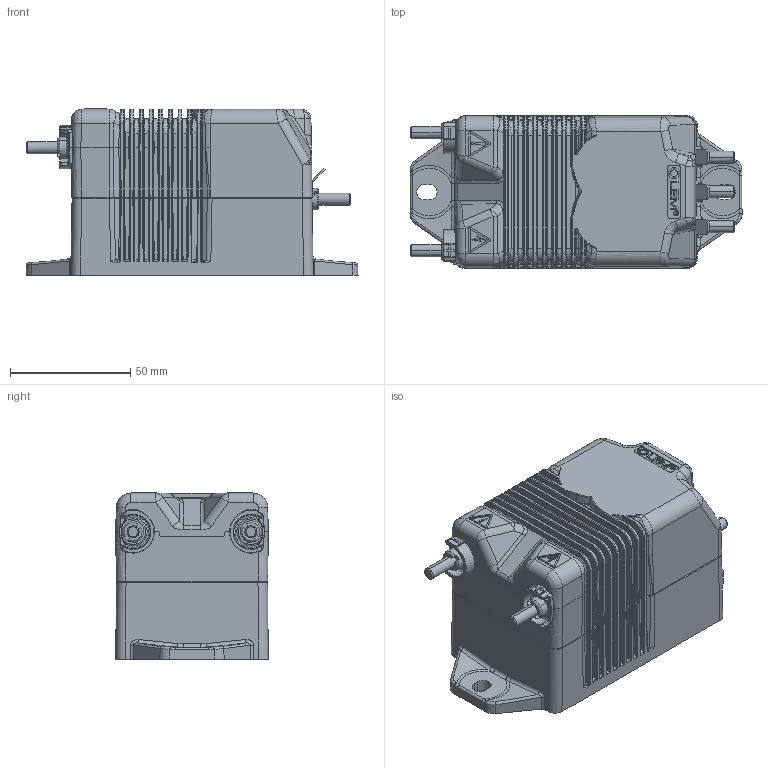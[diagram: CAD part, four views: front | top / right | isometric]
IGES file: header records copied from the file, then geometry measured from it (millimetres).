
Start section: Elysium IGES Interface
Global section: file name: C:\Users\scy\Desktop\B.igs; native system: PTC Creo Elements/Direct Modeling 19.0B  21-Mar-2015; preprocessor: Creo Element/Direct IGES_3D V2.2; author: Unknown; organization: Unknown; date: 20160511.142406; units: millimetre
Bounding box: 138 x 63.4 x 69.2 mm (x, y, z)
Volume: 401657.4 mm3; surface area: 56581 mm2
Topology: 1 solids, 1 shells, 2851 faces, 7055 edges, 4259 vertices
Faces by surface type: bspline 2851
